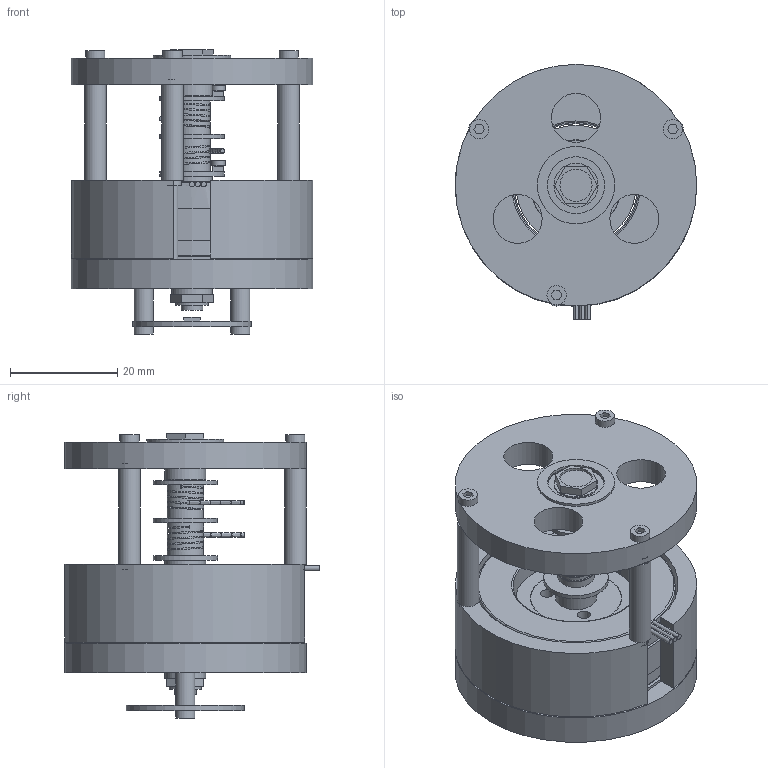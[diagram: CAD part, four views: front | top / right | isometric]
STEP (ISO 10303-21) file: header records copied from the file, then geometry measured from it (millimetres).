
FILE_DESCRIPTION(('Open CASCADE Model'),'2;1');
FILE_NAME('Open CASCADE Shape Model','2026-11-03T08:06:56',('Author'),( 'Open CASCADE'),'Open CASCADE STEP processor 7.9','Open CASCADE 7.9' ,'Unknown');
FILE_SCHEMA(('AUTOMOTIVE_DESIGN { 1 0 10303 214 1 1 1 1 }'));
Length unit declared in the file: millimetre
Products named in the file (36): ri30_motor_module; ri30_housing; ri30_rear_cover; ri30_rear_outer; ri30_rear_inner; ri30_rear_shields; ri30_official_0; ri30_official_1; ri30_hub; ri30_spindle; ri30_spacers; ri30_anchor_0; ri30_anchor_screw_0; ri30_anchor_1; ri30_anchor_screw_1; ri30_front_cover; ri30_front_outer; ri30_front_inner; ri30_front_shields; ri30_column_0; ri30_tiebolt_0; ri30_column_1; ri30_tiebolt_1; ri30_column_2; ri30_tiebolt_2; ri30_locknut_0; ri30_locknut_1; ri30_magnet; ri30_encoder; ri30_sensor; ri30_pcb_standoff_0; ri30_pcb_screw_0; ri30_pcb_standoff_1; ri30_pcb_screw_1; ri30_cord_0; ri30_cord_1
Assembly tree (35 placements, depth 2):
  ri30_motor_module
    ri30_housing
    ri30_rear_cover
    ri30_rear_outer
    ri30_rear_inner
    ri30_rear_shields
    ri30_official_0
    ri30_official_1
    ri30_hub
    ri30_spindle
    ri30_spacers
    ri30_anchor_0
    ri30_anchor_screw_0
    ri30_anchor_1
    ri30_anchor_screw_1
    ri30_front_cover
    ri30_front_outer
    ri30_front_inner
    ri30_front_shields
    ri30_column_0
    ri30_tiebolt_0
    ri30_column_1
    ri30_tiebolt_1
    ri30_column_2
    ri30_tiebolt_2
    ri30_locknut_0
    ri30_locknut_1
    ri30_magnet
    ri30_encoder
    ri30_sensor
    ri30_pcb_standoff_0
    ri30_pcb_screw_0
    ri30_pcb_standoff_1
    ri30_pcb_screw_1
    ri30_cord_0
    ri30_cord_1
Bounding box: 45 x 47.5 x 52.9 mm (x, y, z)
Volume: 35528.7 mm3; surface area: 28018.2 mm2
Topology: 40 solids, 40 shells, 372 faces, 724 edges, 476 vertices
Faces by surface type: plane 204, cylinder 152, torus 11, bspline 5
Full cylindrical faces by diameter (mm): 1.4 x2, 1.5 x3, 1.6 x3, 2 x5, 2.1 x21, 2.2 x2, 2.4 x3, 2.52 x2, 3.2 x6, 3.22 x5, 3.6 x7, 4 x4, 4.06 x1, 6 x6, 6.02 x1, 6.04 x4, 6.8 x9, 7.6 x4, 8.2 x6, 9.12 x6, 10.6 x8, 12 x3, 13 x2, 13.04 x2, 14.4 x1, 16.9 x1, 22 x1, 36 x1, 38.08 x1, 45 x2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
Entity records: 50843 total; most frequent: CARTESIAN_POINT 34386, DIRECTION 3048, ORIENTED_EDGE 1448, PCURVE 1448, DEFINITIONAL_REPRESENTATION 1448, LINE 1346, VECTOR 1346, EDGE_CURVE 724
